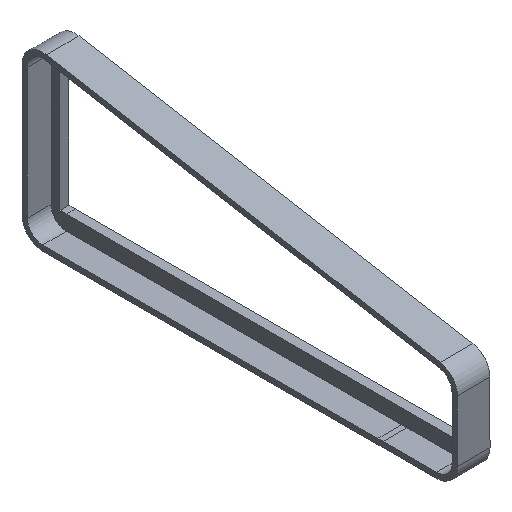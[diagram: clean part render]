
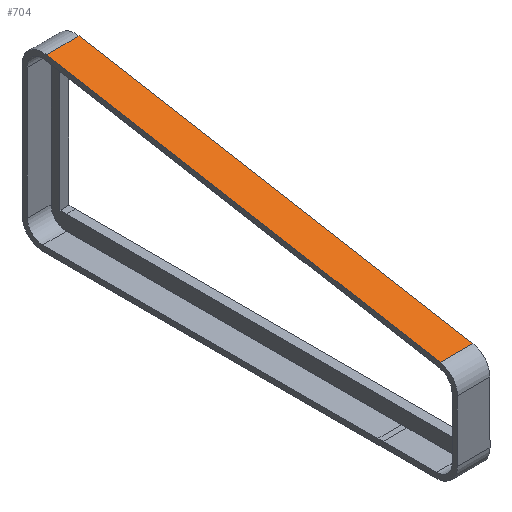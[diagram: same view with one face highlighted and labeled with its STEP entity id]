
A CAD part, isometric view. The second image highlights one B-rep face of the part: STEP entity #704.
In plain terms, the highlighted planar face has unit normal (0, -0.174, 0.985).
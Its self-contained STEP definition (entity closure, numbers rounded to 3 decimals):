
#38=PLANE('',#772);
#72=FACE_OUTER_BOUND('',#109,.T.);
#109=EDGE_LOOP('',(#595,#596,#597,#598,#599));
#144=LINE('',#1050,#224);
#188=LINE('',#1152,#268);
#189=LINE('',#1154,#269);
#190=LINE('',#1158,#270);
#191=LINE('',#1159,#271);
#224=VECTOR('',#851,10.);
#268=VECTOR('',#943,10.);
#269=VECTOR('',#944,10.);
#270=VECTOR('',#949,10.);
#271=VECTOR('',#950,10.);
#324=VERTEX_POINT('',#1047);
#325=VERTEX_POINT('',#1049);
#359=VERTEX_POINT('',#1151);
#360=VERTEX_POINT('',#1153);
#361=VERTEX_POINT('',#1157);
#401=EDGE_CURVE('',#325,#324,#144,.T.);
#452=EDGE_CURVE('',#359,#325,#188,.T.);
#453=EDGE_CURVE('',#359,#360,#189,.T.);
#455=EDGE_CURVE('',#361,#324,#190,.T.);
#456=EDGE_CURVE('',#361,#360,#191,.T.);
#595=ORIENTED_EDGE('',*,*,#453,.F.);
#596=ORIENTED_EDGE('',*,*,#452,.T.);
#597=ORIENTED_EDGE('',*,*,#401,.T.);
#598=ORIENTED_EDGE('',*,*,#455,.F.);
#599=ORIENTED_EDGE('',*,*,#456,.T.);
#704=ADVANCED_FACE('',(#72),#38,.F.);
#772=AXIS2_PLACEMENT_3D('',#1156,#947,#948);
#851=DIRECTION('',(0.,-0.985,-0.174));
#943=DIRECTION('',(-1.,0.,0.));
#944=DIRECTION('',(1.,0.,0.));
#947=DIRECTION('center_axis',(0.,0.174,-0.985));
#948=DIRECTION('ref_axis',(0.,0.985,0.174));
#949=DIRECTION('',(-1.,0.,0.));
#950=DIRECTION('',(0.,0.985,0.174));
#1047=CARTESIAN_POINT('',(117.6,-59.013,32.519));
#1049=CARTESIAN_POINT('',(117.6,73.778,55.934));
#1050=CARTESIAN_POINT('',(117.6,73.778,55.934));
#1151=CARTESIAN_POINT('',(125.6,73.778,55.934));
#1152=CARTESIAN_POINT('',(125.6,73.778,55.934));
#1153=CARTESIAN_POINT('',(128.6,73.778,55.934));
#1154=CARTESIAN_POINT('',(125.6,73.778,55.934));
#1156=CARTESIAN_POINT('Origin',(125.6,-59.013,32.519));
#1157=CARTESIAN_POINT('',(128.6,-59.013,32.519));
#1158=CARTESIAN_POINT('',(125.6,-59.013,32.519));
#1159=CARTESIAN_POINT('',(128.6,73.778,55.934));
